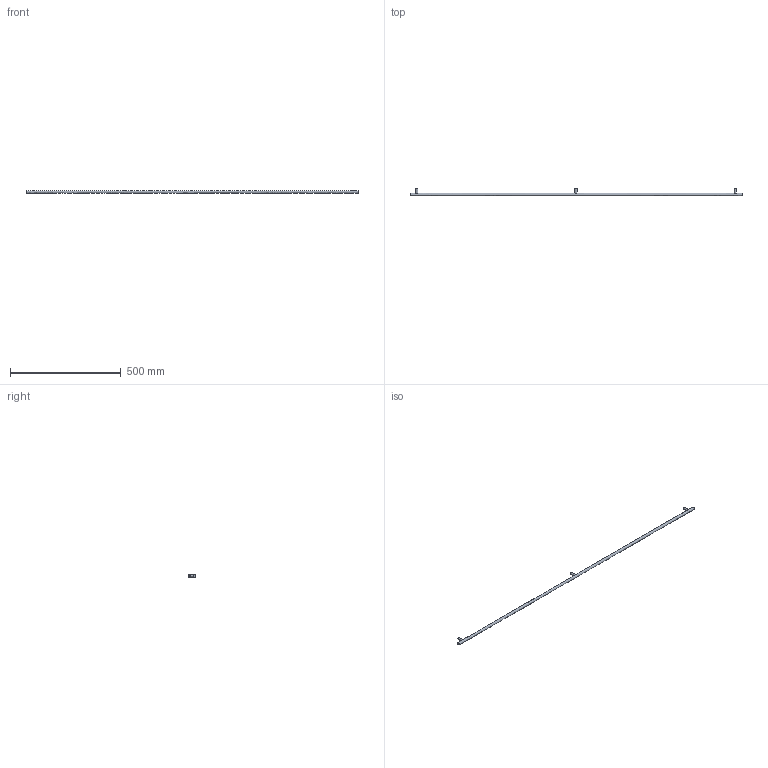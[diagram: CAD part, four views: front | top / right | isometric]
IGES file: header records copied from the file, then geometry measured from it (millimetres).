
Start section: Data from Parasolid IGES Translator 15.0.47, Copyright(c) 2006 Siemens P LM Software. All Rights Reserved.
Global section: file name: 9071043.igs; native system:  By UGS Corp.; preprocessor: XPlus GENERIC/IGES 3.0; author: Noname; organization: Noname; date: 20140122.181352; units: millimetre
Bounding box: 1500 x 35 x 12 mm (x, y, z)
Surface area: 59482.8 mm2 (no closed solid volume)
Topology: 0 solids, 0 shells, 15 faces, 42 edges, 30 vertices
Faces by surface type: extrusion 8, revolution 7
